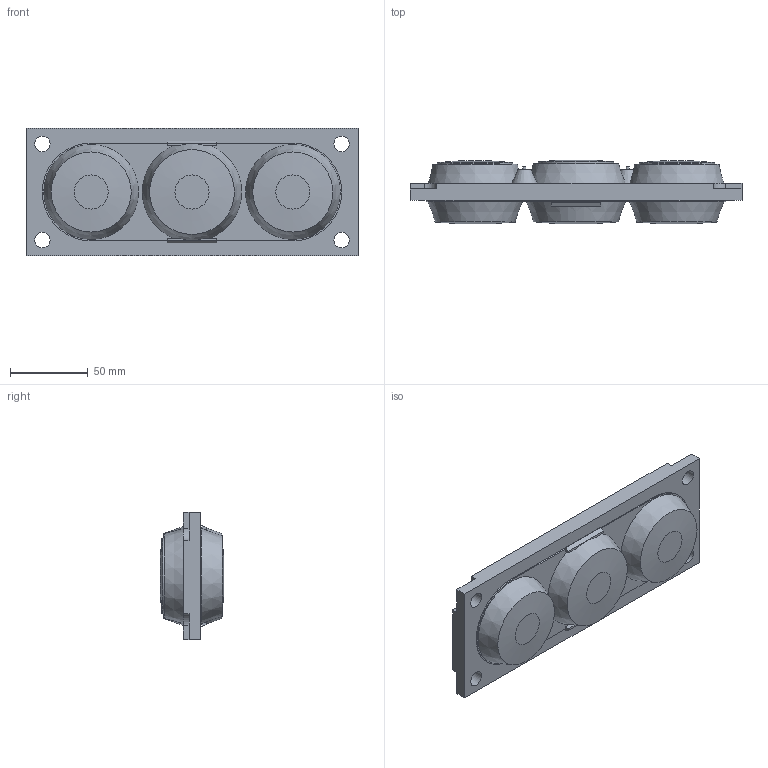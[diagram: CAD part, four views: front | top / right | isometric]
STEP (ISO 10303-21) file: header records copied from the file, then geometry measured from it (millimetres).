
FILE_DESCRIPTION( ( 'STEP AP214' ), '1' );
FILE_NAME( 'p:/temp/worker_128/temp/exporttempdir_3224_293_aQFab/format_0/EHTC213G(0).stp', '2021-03-15T16:50:31', ( 'License CC BY-ND 4.0' ), ( 'CADENAS' ), ' ', 'PARTsolutions', ' ' );
FILE_SCHEMA( ( 'AUTOMOTIVE_DESIGN { 1 0 10303 214 1 1 1 1 }' ) );
Length unit declared in the file: millimetre
Products named in the file (1): _EHTC213G(0)
Bounding box: 214 x 40.97 x 82 mm (x, y, z)
Volume: 412637.6 mm3; surface area: 53888.4 mm2
Topology: 1 solids, 1 shells, 88 faces, 212 edges, 136 vertices
Faces by surface type: plane 48, cone 21, cylinder 19
Full cylindrical faces by diameter (mm): 2 x3, 10 x4, 17.522 x2, 23.498 x1, 48.5 x1, 48.616 x2
Entity records: 3052 total; most frequent: DIRECTION 406, CARTESIAN_POINT 403, ORIENTED_EDGE 338, EDGE_CURVE 169, AXIS2_PLACEMENT_3D 152, EDGE_LOOP 140, VERTEX_POINT 129, LINE 102
